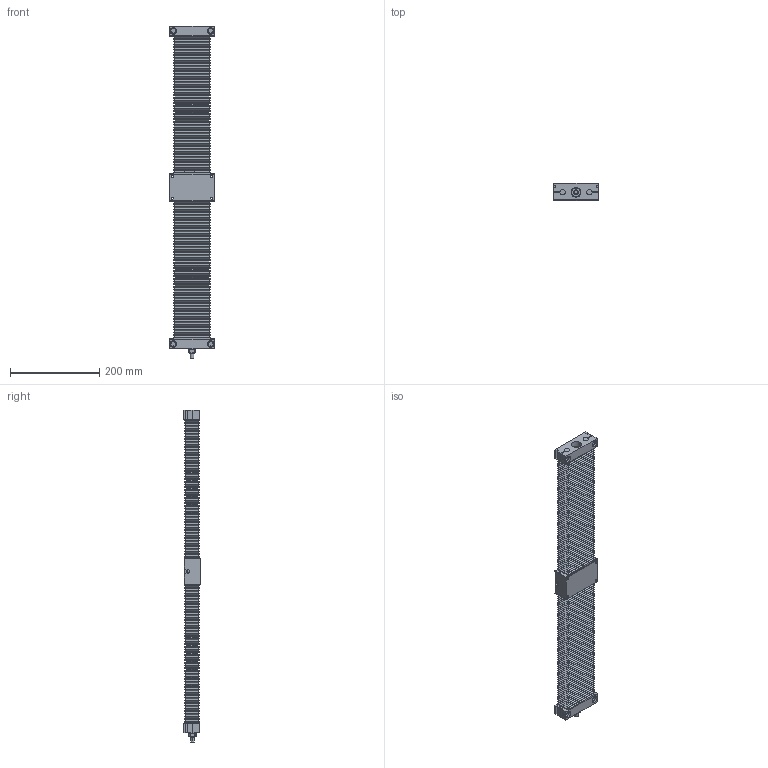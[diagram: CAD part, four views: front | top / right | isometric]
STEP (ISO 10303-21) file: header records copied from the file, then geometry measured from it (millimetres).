
FILE_DESCRIPTION (( 'STEP AP214' ), '1' );
FILE_NAME ('TKC1204B-400H0C-Ä£×é.step', '2025-10-10T09:44:34', ( '' ), ( '' ), 'SwSTEP 2.0', 'SolidWorks 2024', '' );
FILE_SCHEMA (( 'AUTOMOTIVE_DESIGN' ));
Length unit declared in the file: millimetre
Products named in the file (4): TKC12-400-01; TKC1204B-400H0C-模组; TKC12-400-03; TKC12-02
Assembly tree (4 placements, depth 2):
  TKC1204B-400H0C-模组
    TKC12-02
    TKC12-400-01
    TKC12-400-03  x2
Bounding box: 100 x 38 x 744.5 mm (x, y, z)
Volume: 1258170.6 mm3; surface area: 564194.6 mm2
Topology: 14 solids, 14 shells, 2029 faces, 4490 edges, 2537 vertices
Faces by surface type: plane 1525, cylinder 419, cone 46, torus 28, bspline 11
Entity records: 51658 total; most frequent: CARTESIAN_POINT 20828, ORIENTED_EDGE 6332, DIRECTION 6029, EDGE_CURVE 3166, VECTOR 2207, LINE 2207, AXIS2_PLACEMENT_3D 1911, VERTEX_POINT 1877
